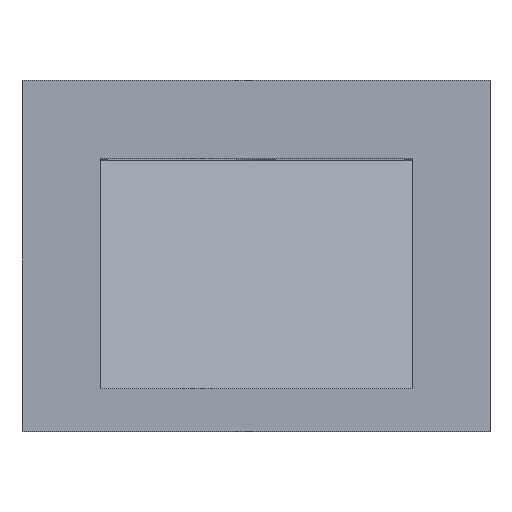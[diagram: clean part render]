
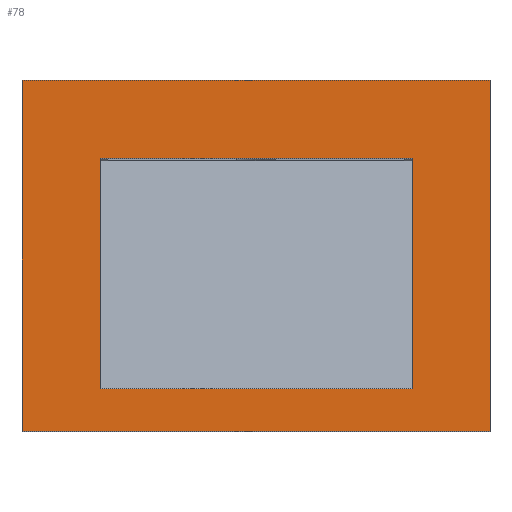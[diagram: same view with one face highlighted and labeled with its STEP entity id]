
A CAD part, top view. The second image highlights one B-rep face of the part: STEP entity #78.
In plain terms, the highlighted planar face has unit normal (0, 0, 1).
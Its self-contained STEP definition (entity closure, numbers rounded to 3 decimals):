
#43=FACE_BOUND('',#211,.T.);
#44=FACE_BOUND('',#212,.T.);
#78=ADVANCED_FACE('',(#43,#44),#125,.F.);
#125=PLANE('',#923);
#211=EDGE_LOOP('',(#353,#354,#355,#356));
#212=EDGE_LOOP('',(#357,#358,#359,#360));
#353=ORIENTED_EDGE('',*,*,#612,.F.);
#354=ORIENTED_EDGE('',*,*,#653,.F.);
#355=ORIENTED_EDGE('',*,*,#651,.T.);
#356=ORIENTED_EDGE('',*,*,#654,.T.);
#357=ORIENTED_EDGE('',*,*,#581,.T.);
#358=ORIENTED_EDGE('',*,*,#611,.T.);
#359=ORIENTED_EDGE('',*,*,#655,.F.);
#360=ORIENTED_EDGE('',*,*,#656,.F.);
#498=VERTEX_POINT('',#1187);
#502=VERTEX_POINT('',#1194);
#528=VERTEX_POINT('',#1259);
#529=VERTEX_POINT('',#1263);
#530=VERTEX_POINT('',#1264);
#556=VERTEX_POINT('',#1369);
#557=VERTEX_POINT('',#1371);
#558=VERTEX_POINT('',#1377);
#581=EDGE_CURVE('',#498,#502,#699,.T.);
#611=EDGE_CURVE('',#502,#528,#728,.T.);
#612=EDGE_CURVE('',#529,#530,#729,.T.);
#651=EDGE_CURVE('',#557,#556,#763,.T.);
#653=EDGE_CURVE('',#557,#529,#765,.T.);
#654=EDGE_CURVE('',#556,#530,#766,.T.);
#655=EDGE_CURVE('',#558,#528,#767,.T.);
#656=EDGE_CURVE('',#498,#558,#768,.T.);
#699=LINE('',#1195,#805);
#728=LINE('',#1260,#834);
#729=LINE('',#1262,#835);
#763=LINE('',#1370,#869);
#765=LINE('',#1374,#871);
#766=LINE('',#1375,#872);
#767=LINE('',#1376,#873);
#768=LINE('',#1378,#874);
#805=VECTOR('',#969,1.);
#834=VECTOR('',#1010,1.);
#835=VECTOR('',#1013,1.);
#869=VECTOR('',#1067,1.);
#871=VECTOR('',#1071,1.);
#872=VECTOR('',#1072,1.);
#873=VECTOR('',#1073,1.);
#874=VECTOR('',#1074,1.);
#923=AXIS2_PLACEMENT_3D('',#1379,#1075,#1076);
#969=DIRECTION('',(0.,-1.,0.));
#1010=DIRECTION('',(-1.,0.,0.));
#1013=DIRECTION('',(-1.,0.,0.));
#1067=DIRECTION('',(-1.,0.,0.));
#1071=DIRECTION('',(0.,-1.,0.));
#1072=DIRECTION('',(0.,-1.,0.));
#1073=DIRECTION('',(0.,-1.,0.));
#1074=DIRECTION('',(-1.,0.,0.));
#1075=DIRECTION('',(0.,0.,-1.));
#1076=DIRECTION('',(-1.,0.,0.));
#1187=CARTESIAN_POINT('',(200.,28.,0.));
#1194=CARTESIAN_POINT('',(200.,-267.,0.));
#1195=CARTESIAN_POINT('',(200.,128.,0.));
#1259=CARTESIAN_POINT('',(-200.,-267.,0.));
#1260=CARTESIAN_POINT('',(200.,-267.,0.));
#1262=CARTESIAN_POINT('',(200.,-322.,0.));
#1263=CARTESIAN_POINT('',(300.,-322.,0.));
#1264=CARTESIAN_POINT('',(-300.,-322.,0.));
#1369=CARTESIAN_POINT('',(-300.,128.,0.));
#1370=CARTESIAN_POINT('',(200.,128.,0.));
#1371=CARTESIAN_POINT('',(300.,128.,0.));
#1374=CARTESIAN_POINT('',(300.,128.,0.));
#1375=CARTESIAN_POINT('',(-300.,128.,0.));
#1376=CARTESIAN_POINT('',(-200.,128.,0.));
#1377=CARTESIAN_POINT('',(-200.,28.,0.));
#1378=CARTESIAN_POINT('',(200.,28.,0.));
#1379=CARTESIAN_POINT('',(200.,128.,0.));
